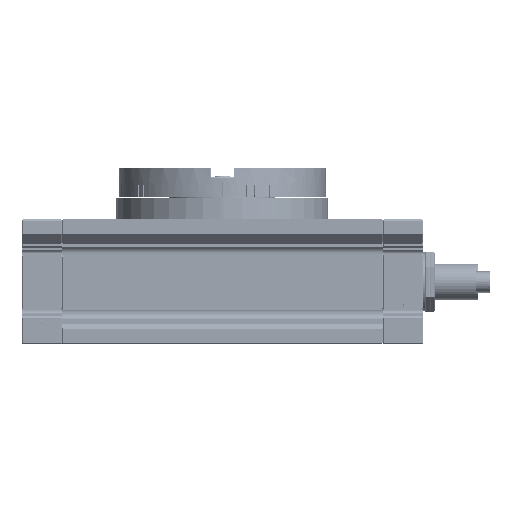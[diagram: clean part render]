
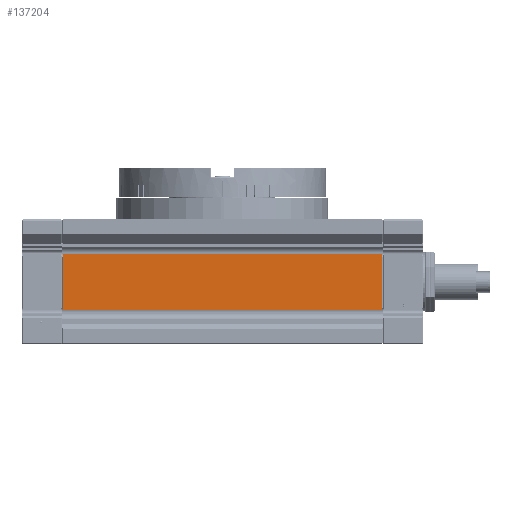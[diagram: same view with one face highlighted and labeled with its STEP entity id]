
A CAD part, left-side view. The second image highlights one B-rep face of the part: STEP entity #137204.
In plain terms, the highlighted planar face has unit normal (-1, 0, 0) as drawn and (0, 1, 0) by its records, which use the part's own axes.
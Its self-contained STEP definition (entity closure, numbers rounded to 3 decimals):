
#74880 = CARTESIAN_POINT ( 'NONE',  ( 0.5, 88., 38.5 ) ) ;
#74893 = CARTESIAN_POINT ( 'NONE',  ( 135.5, 88., 38.5 ) ) ;
#74915 = DIRECTION ( 'NONE',  ( 1., 0., 0. ) ) ;
#74916 = VECTOR ( 'NONE', #74915, 1000. ) ;
#74917 = CARTESIAN_POINT ( 'NONE',  ( 0., 88., 38.5 ) ) ;
#74918 = LINE ( 'NONE', #74917, #74916 ) ;
#75821 = LINE ( 'NONE', #75824, #75829 ) ;
#75823 = DIRECTION ( 'NONE',  ( 0., 0., -1. ) ) ;
#75824 = CARTESIAN_POINT ( 'NONE',  ( 135.5, 88., 42.7 ) ) ;
#75829 = VECTOR ( 'NONE', #75823, 1000. ) ;
#75921 = DIRECTION ( 'NONE',  ( 0., 0., 1. ) ) ;
#75922 = CARTESIAN_POINT ( 'NONE',  ( 0.5, 88., 42.7 ) ) ;
#75925 = CARTESIAN_POINT ( 'NONE',  ( 0.5, 88., 14.5 ) ) ;
#75948 = LINE ( 'NONE', #75979, #75977 ) ;
#75974 = VECTOR ( 'NONE', #75921, 1000. ) ;
#75976 = DIRECTION ( 'NONE',  ( 1., 0., 0. ) ) ;
#75977 = VECTOR ( 'NONE', #75976, 1000. ) ;
#75979 = CARTESIAN_POINT ( 'NONE',  ( 0., 88., 14.5 ) ) ;
#75982 = DIRECTION ( 'NONE',  ( 0., 0., -1. ) ) ;
#75983 = DIRECTION ( 'NONE',  ( 0., -1., 0. ) ) ;
#75984 = CARTESIAN_POINT ( 'NONE',  ( 136., 88., 42.7 ) ) ;
#75985 = AXIS2_PLACEMENT_3D ( 'NONE', #75984, #75983, #75982 ) ;
#75986 = PLANE ( 'NONE',  #75985 ) ;
#75987 = LINE ( 'NONE', #75922, #75974 ) ;
#75988 = FACE_OUTER_BOUND ( 'NONE', #137352, .T. ) ;
#76093 = CARTESIAN_POINT ( 'NONE',  ( 135.5, 88., 14.5 ) ) ;
#136269 = VERTEX_POINT ( 'NONE', #74880 ) ;
#136280 = EDGE_CURVE ( 'NONE', #136269, #136281, #74918, .T. ) ;
#136281 = VERTEX_POINT ( 'NONE', #74893 ) ;
#137202 = VERTEX_POINT ( 'NONE', #75925 ) ;
#137204 = ADVANCED_FACE ( 'NONE', ( #75988 ), #75986, .F. ) ;
#137206 = ORIENTED_EDGE ( 'NONE', *, *, #136280, .T. ) ;
#137208 = ORIENTED_EDGE ( 'NONE', *, *, #137216, .T. ) ;
#137210 = ORIENTED_EDGE ( 'NONE', *, *, #137346, .T. ) ;
#137212 = EDGE_CURVE ( 'NONE', #137202, #137348, #75948, .T. ) ;
#137214 = ORIENTED_EDGE ( 'NONE', *, *, #137212, .F. ) ;
#137216 = EDGE_CURVE ( 'NONE', #137202, #136269, #75987, .T. ) ;
#137346 = EDGE_CURVE ( 'NONE', #136281, #137348, #75821, .T. ) ;
#137348 = VERTEX_POINT ( 'NONE', #76093 ) ;
#137352 = EDGE_LOOP ( 'NONE', ( #137206, #137210, #137214, #137208 ) ) ;
